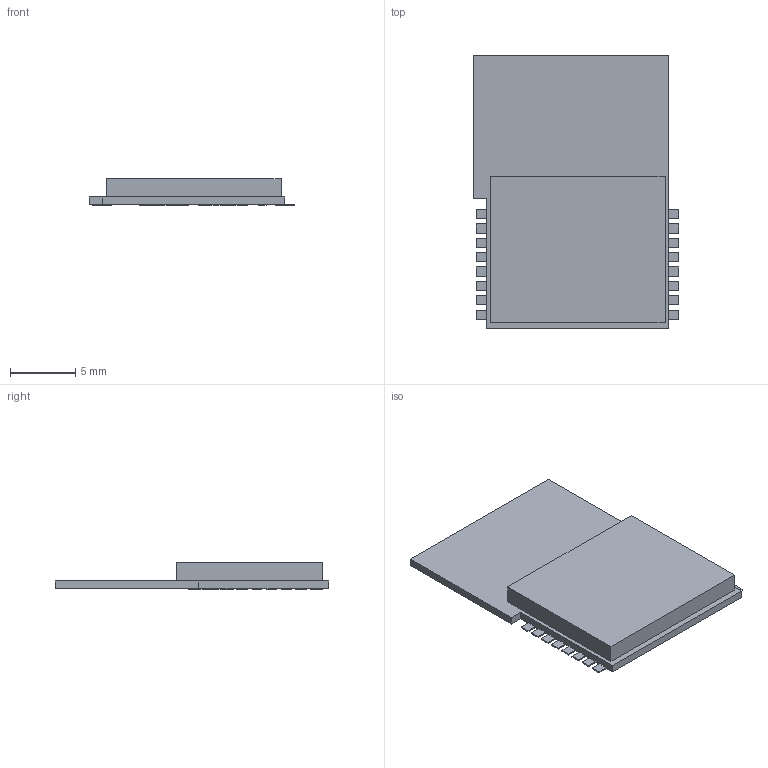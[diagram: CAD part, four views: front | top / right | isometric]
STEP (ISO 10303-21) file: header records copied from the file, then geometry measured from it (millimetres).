
FILE_DESCRIPTION(('FreeCAD Model'),'2;1');
FILE_NAME('Open CASCADE Shape Model','2026-10-15T00:26:04',('FreeCAD'),( 'FreeCAD'),'Open CASCADE STEP processor 7.8','FreeCAD','Unknown');
FILE_SCHEMA(('AUTOMOTIVE_DESIGN { 1 0 10303 214 1 1 1 1 }'));
Length unit declared in the file: millimetre
Products named in the file (1): Open CASCADE STEP translator 7.8 8
Bounding box: 15.74 x 21 x 2.05 mm (x, y, z)
Volume: 397.4 mm3; surface area: 1129.2 mm2
Topology: 68 solids, 68 shells, 410 faces, 822 edges, 548 vertices
Faces by surface type: plane 410
Entity records: 10282 total; most frequent: CARTESIAN_POINT 1781, DIRECTION 1644, ORIENTED_EDGE 1644, EDGE_CURVE 822, LINE 822, VECTOR 822, VERTEX_POINT 548, AXIS2_PLACEMENT_3D 411
